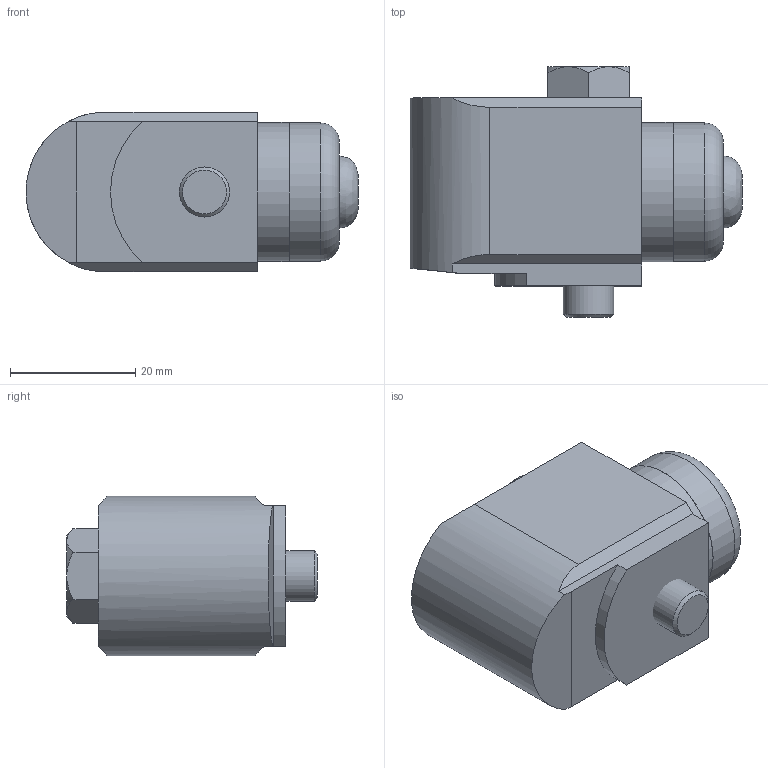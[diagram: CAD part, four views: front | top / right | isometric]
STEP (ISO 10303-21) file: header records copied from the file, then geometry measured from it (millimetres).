
FILE_DESCRIPTION(/* description */ (''),/* implementation_level */ '2;1');
FILE_NAME(/* name */ 'Z:\Engineering\Drawings\3D Library\Assemblies\Website\Premium Side\HS-150 Side Braided\HS-150SXXX0208.stp',/* time_stamp */ '2023-03-12T13:32:00+00:00',/* author */ ('Ricardo.Peneda'),/* organization */ (''),/* preprocessor_version */ 'ST-DEVELOPER v18.1',/* originating_system */ 'Autodesk Inventor 2021',/* authorisation */ '');
FILE_SCHEMA (('AUTOMOTIVE_DESIGN { 1 0 10303 214 3 1 1 }'));
Length unit declared in the file: inch
Products named in the file (1): HS-150SXXX0208_Shrinkwrap_1
Bounding box: 52.99 x 40 x 25.5 mm (x, y, z)
Volume: 25326.1 mm3; surface area: 10835.2 mm2
Topology: 4 solids, 4 shells, 67 faces, 161 edges, 114 vertices
Faces by surface type: plane 37, cylinder 17, cone 11, torus 1, bspline 1
Full cylindrical faces by diameter (mm): 4.2 x1, 6.4 x1, 6.647 x1, 8 x1, 10 x1, 13 x1, 13.941 x1, 14.95 x1, 15.34 x1, 15.35 x1, 17.941 x1, 19.891 x1, 20 x1, 22.141 x1, 22.2 x1
Entity records: 2157 total; most frequent: CARTESIAN_POINT 395, DIRECTION 369, ORIENTED_EDGE 322, EDGE_CURVE 161, AXIS2_PLACEMENT_3D 153, VERTEX_POINT 114, EDGE_LOOP 83, CIRCLE 81
